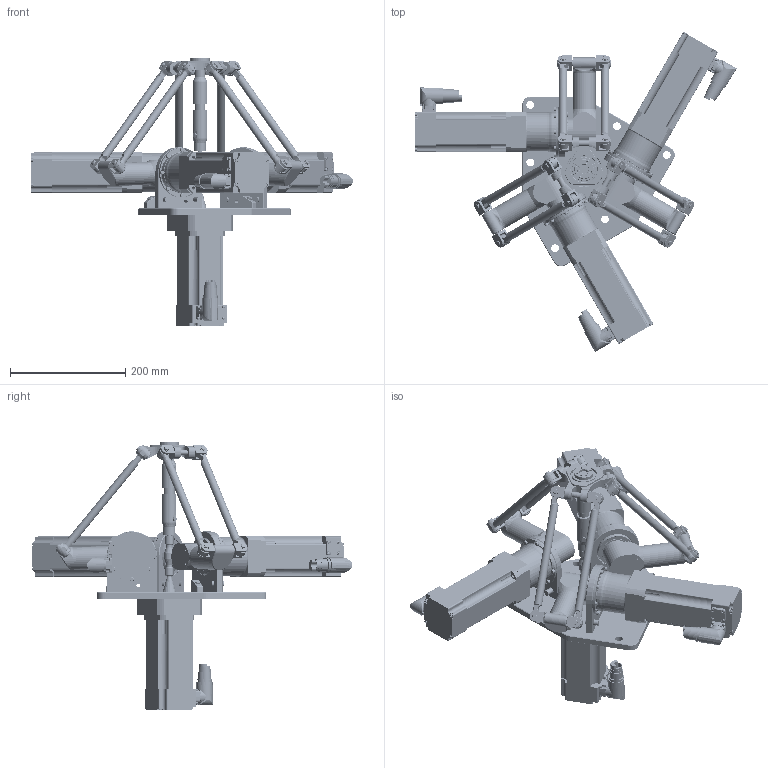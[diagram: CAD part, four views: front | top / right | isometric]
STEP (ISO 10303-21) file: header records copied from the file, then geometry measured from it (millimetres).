
FILE_DESCRIPTION (( 'STEP AP214' ), '1' );
FILE_NAME ('DR4020C-AX0.5.STEP', '2020-04-07T07:48:01', ( '' ), ( '' ), 'SwSTEP 2.0', 'SolidWorks 2017', '' );
FILE_SCHEMA (( 'AUTOMOTIVE_DESIGN' ));
Length unit declared in the file: millimetre
Products named in the file (3): 8LSAA2_D9045S200_3_1; DR4020C-AX0.5_3D_ohne_Motor; DR4020C-AX0.5
Assembly tree (5 placements, depth 2):
  DR4020C-AX0.5
    DR4020C-AX0.5_3D_ohne_Motor
    8LSAA2_D9045S200_3_1  x4
Bounding box: 559.13 x 556.41 x 467.5 mm (x, y, z)
Volume: 3076293.4 mm3; surface area: 815084.4 mm2
Topology: 4 solids, 61 shells, 4212 faces, 10460 edges, 6698 vertices
Faces by surface type: plane 2304, cylinder 1035, cone 547, bspline 326
Full cylindrical faces by diameter (mm): 1 x16, 3.459 x13, 4 x1, 4.13 x4, 4.917 x4, 5.3 x4, 5.5 x56, 5.8 x16, 5.9 x2, 6 x1, 6.5 x27, 7 x24, 8 x60, 8.5 x1, 10 x34, 10.376 x1, 11 x2, 12 x12, 13.5 x6, 14 x14, 15 x2, 16 x1, 18 x29, 19 x1, 19.8 x4, 20 x4, 21 x1, 21.5 x4, 23.1 x4, 24.5 x4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
Entity records: 107192 total; most frequent: CARTESIAN_POINT 32643, DIRECTION 10506, ORIENTED_EDGE 10154, EDGE_CURVE 5081, AXIS2_PLACEMENT_3D 3871, VERTEX_POINT 3448, EDGE_LOOP 3249, FACE_OUTER_BOUND 2814
